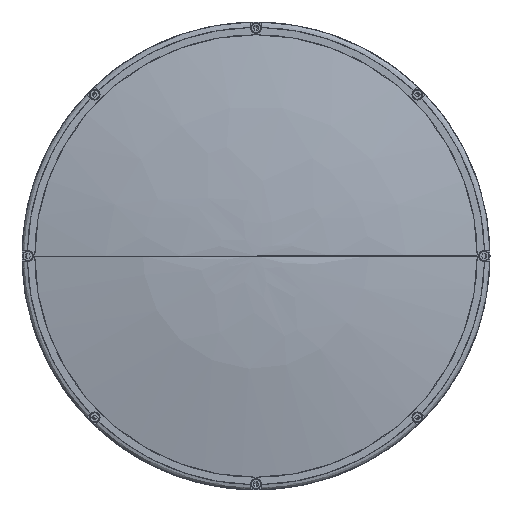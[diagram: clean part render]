
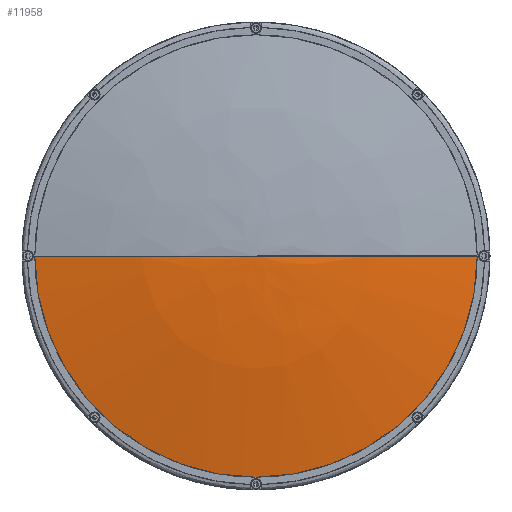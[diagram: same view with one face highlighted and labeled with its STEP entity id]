
A CAD part, left-side view. The second image highlights one B-rep face of the part: STEP entity #11958.
In plain terms, the highlighted face is a revolution surface.
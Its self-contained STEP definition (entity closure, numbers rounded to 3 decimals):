
#11958 = ADVANCED_FACE('',(#11959),#11977,.T.);
#11959 = FACE_BOUND('',#11960,.T.);
#11960 = EDGE_LOOP('',(#11961,#11991,#12010,#12029));
#11961 = ORIENTED_EDGE('',*,*,#11962,.F.);
#11962 = EDGE_CURVE('',#11963,#11965,#11967,.T.);
#11963 = VERTEX_POINT('',#11964);
#11964 = CARTESIAN_POINT('',(-560.373,0.,
    0.));
#11965 = VERTEX_POINT('',#11966);
#11966 = CARTESIAN_POINT('',(-547.362,124.9,
    0.));
#11967 = SURFACE_CURVE('',#11968,(#11976),.PCURVE_S1.);
#11968 = ( BOUNDED_CURVE() B_SPLINE_CURVE(6,(#11969,#11970,#11971,#11972
    ,#11973,#11974,#11975),.UNSPECIFIED.,.F.,.F.) 
B_SPLINE_CURVE_WITH_KNOTS((7,7),(0.,1.),.PIECEWISE_BEZIER_KNOTS.) CURVE(
) GEOMETRIC_REPRESENTATION_ITEM() RATIONAL_B_SPLINE_CURVE((
    1.001,1.,1.,1.,
1.,1.,1.001)) REPRESENTATION_ITEM('') 
  );
#11969 = CARTESIAN_POINT('',(-560.373,0.,
    0.));
#11970 = CARTESIAN_POINT('',(-560.373,20.974,
    0.));
#11971 = CARTESIAN_POINT('',(-559.502,41.94,
    0.));
#11972 = CARTESIAN_POINT('',(-557.761,62.856,
    0.));
#11973 = CARTESIAN_POINT('',(-555.154,83.681,
    0.));
#11974 = CARTESIAN_POINT('',(-551.685,104.376,
    0.));
#11975 = CARTESIAN_POINT('',(-547.362,124.9,
    0.));
#11976 = PCURVE('',#11977,#11986);
#11977 = SURFACE_OF_REVOLUTION('',#11978,#11983);
#11978 = CIRCLE('',#11979,606.);
#11979 = AXIS2_PLACEMENT_3D('',#11980,#11981,#11982);
#11980 = CARTESIAN_POINT('',(45.627,0.,0.));
#11981 = DIRECTION('',(-0.,0.,1.));
#11982 = DIRECTION('',(1.,0.,0.));
#11983 = AXIS1_PLACEMENT('',#11984,#11985);
#11984 = CARTESIAN_POINT('',(45.627,0.,0.));
#11985 = DIRECTION('',(1.,0.,0.));
#11986 = DEFINITIONAL_REPRESENTATION('',(#11987),#11990);
#11987 = B_SPLINE_CURVE_WITH_KNOTS('',1,(#11988,#11989),.UNSPECIFIED.,
  .F.,.F.,(2,2),(0.,1.),.PIECEWISE_BEZIER_KNOTS.);
#11988 = CARTESIAN_POINT('',(6.283,3.142));
#11989 = CARTESIAN_POINT('',(6.283,2.934));
#11990 = ( GEOMETRIC_REPRESENTATION_CONTEXT(2) 
PARAMETRIC_REPRESENTATION_CONTEXT() REPRESENTATION_CONTEXT('',''
  ) );
#11991 = ORIENTED_EDGE('',*,*,#11992,.F.);
#11992 = EDGE_CURVE('',#11993,#11963,#11995,.T.);
#11993 = VERTEX_POINT('',#11994);
#11994 = CARTESIAN_POINT('',(-560.373,0.,
    0.));
#11995 = SURFACE_CURVE('',#11996,(#12004),.PCURVE_S1.);
#11996 = ( BOUNDED_CURVE() B_SPLINE_CURVE(6,(#11997,#11998,#11999,#12000
    ,#12001,#12002,#12003),.UNSPECIFIED.,.F.,.F.) 
B_SPLINE_CURVE_WITH_KNOTS((7,7),(0.,1.),.PIECEWISE_BEZIER_KNOTS.) CURVE(
) GEOMETRIC_REPRESENTATION_ITEM() RATIONAL_B_SPLINE_CURVE((
    1.133,1.036,0.992,0.976,
0.992,1.036,1.133)) REPRESENTATION_ITEM('') 
  );
#11997 = CARTESIAN_POINT('',(-560.373,0.,
    0.));
#11998 = CARTESIAN_POINT('',(-560.373,0.,
    0.));
#11999 = CARTESIAN_POINT('',(-560.373,0.,
    0.));
#12000 = CARTESIAN_POINT('',(-560.373,0.,
    0.));
#12001 = CARTESIAN_POINT('',(-560.373,0.,
    0.));
#12002 = CARTESIAN_POINT('',(-560.373,0.,
    0.));
#12003 = CARTESIAN_POINT('',(-560.373,0.,
    0.));
#12004 = PCURVE('',#11977,#12005);
#12005 = DEFINITIONAL_REPRESENTATION('',(#12006),#12009);
#12006 = B_SPLINE_CURVE_WITH_KNOTS('',1,(#12007,#12008),.UNSPECIFIED.,
  .F.,.F.,(2,2),(0.,1.),.PIECEWISE_BEZIER_KNOTS.);
#12007 = CARTESIAN_POINT('',(3.142,3.142));
#12008 = CARTESIAN_POINT('',(6.283,3.142));
#12009 = ( GEOMETRIC_REPRESENTATION_CONTEXT(2) 
PARAMETRIC_REPRESENTATION_CONTEXT() REPRESENTATION_CONTEXT('',''
  ) );
#12010 = ORIENTED_EDGE('',*,*,#12011,.F.);
#12011 = EDGE_CURVE('',#12012,#11993,#12014,.T.);
#12012 = VERTEX_POINT('',#12013);
#12013 = CARTESIAN_POINT('',(-547.362,-124.9,
    0.));
#12014 = SURFACE_CURVE('',#12015,(#12023),.PCURVE_S1.);
#12015 = ( BOUNDED_CURVE() B_SPLINE_CURVE(6,(#12016,#12017,#12018,#12019
    ,#12020,#12021,#12022),.UNSPECIFIED.,.F.,.F.) 
B_SPLINE_CURVE_WITH_KNOTS((7,7),(0.,1.),.PIECEWISE_BEZIER_KNOTS.) CURVE(
) GEOMETRIC_REPRESENTATION_ITEM() RATIONAL_B_SPLINE_CURVE((
    1.001,1.,1.,1.,
1.,1.,1.001)) REPRESENTATION_ITEM('') 
  );
#12016 = CARTESIAN_POINT('',(-547.362,-124.9,
    0.));
#12017 = CARTESIAN_POINT('',(-551.685,-104.376,
    0.));
#12018 = CARTESIAN_POINT('',(-555.154,-83.681,
    0.));
#12019 = CARTESIAN_POINT('',(-557.761,-62.856,
    0.));
#12020 = CARTESIAN_POINT('',(-559.502,-41.94,
    0.));
#12021 = CARTESIAN_POINT('',(-560.373,-20.974,
    0.));
#12022 = CARTESIAN_POINT('',(-560.373,0.,
    0.));
#12023 = PCURVE('',#11977,#12024);
#12024 = DEFINITIONAL_REPRESENTATION('',(#12025),#12028);
#12025 = B_SPLINE_CURVE_WITH_KNOTS('',1,(#12026,#12027),.UNSPECIFIED.,
  .F.,.F.,(2,2),(0.,1.),.PIECEWISE_BEZIER_KNOTS.);
#12026 = CARTESIAN_POINT('',(3.142,2.934));
#12027 = CARTESIAN_POINT('',(3.142,3.142));
#12028 = ( GEOMETRIC_REPRESENTATION_CONTEXT(2) 
PARAMETRIC_REPRESENTATION_CONTEXT() REPRESENTATION_CONTEXT('',''
  ) );
#12029 = ORIENTED_EDGE('',*,*,#12030,.F.);
#12030 = EDGE_CURVE('',#11965,#12012,#12031,.T.);
#12031 = SURFACE_CURVE('',#12032,(#12044),.PCURVE_S1.);
#12032 = B_SPLINE_CURVE_WITH_KNOTS('',10,(#12033,#12034,#12035,#12036,
    #12037,#12038,#12039,#12040,#12041,#12042,#12043),.UNSPECIFIED.,.F.,
  .F.,(11,11),(0.,1.),.PIECEWISE_BEZIER_KNOTS.);
#12033 = CARTESIAN_POINT('',(-547.362,124.9,
    0.));
#12034 = CARTESIAN_POINT('',(-547.362,124.9,
    -39.238));
#12035 = CARTESIAN_POINT('',(-547.362,111.203,
    -78.477));
#12036 = CARTESIAN_POINT('',(-547.362,83.809,
    -112.337));
#12037 = CARTESIAN_POINT('',(-547.362,45.134,
    -135.439));
#12038 = CARTESIAN_POINT('',(-547.362,0.,
    -143.67));
#12039 = CARTESIAN_POINT('',(-547.362,-45.134,
    -135.439));
#12040 = CARTESIAN_POINT('',(-547.362,-83.809,
    -112.337));
#12041 = CARTESIAN_POINT('',(-547.362,-111.203,
    -78.477));
#12042 = CARTESIAN_POINT('',(-547.362,-124.9,
    -39.238));
#12043 = CARTESIAN_POINT('',(-547.362,-124.9,
    0.));
#12044 = PCURVE('',#11977,#12045);
#12045 = DEFINITIONAL_REPRESENTATION('',(#12046),#12049);
#12046 = B_SPLINE_CURVE_WITH_KNOTS('',1,(#12047,#12048),.UNSPECIFIED.,
  .F.,.F.,(2,2),(0.,1.),.PIECEWISE_BEZIER_KNOTS.);
#12047 = CARTESIAN_POINT('',(6.283,2.934));
#12048 = CARTESIAN_POINT('',(3.142,2.934));
#12049 = ( GEOMETRIC_REPRESENTATION_CONTEXT(2) 
PARAMETRIC_REPRESENTATION_CONTEXT() REPRESENTATION_CONTEXT('',''
  ) );
